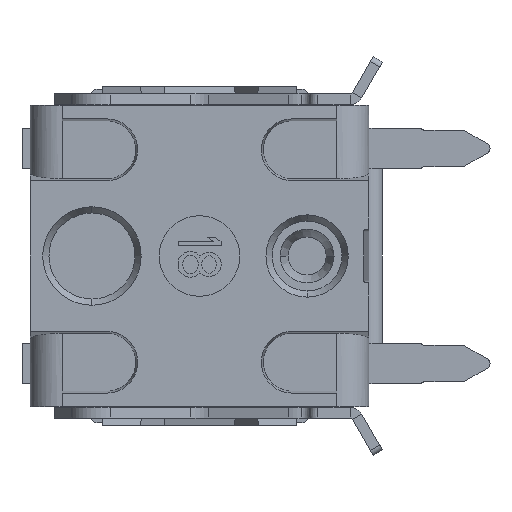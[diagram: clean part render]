
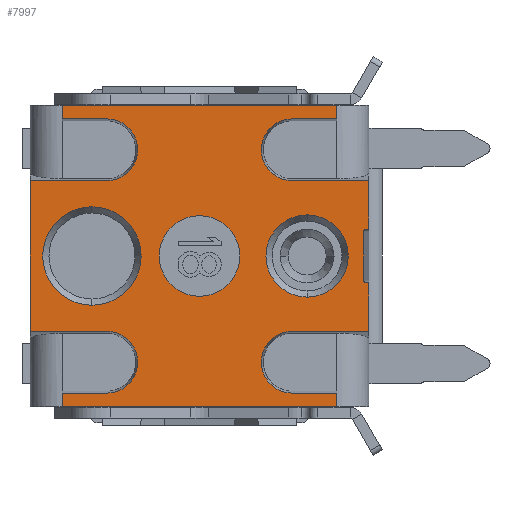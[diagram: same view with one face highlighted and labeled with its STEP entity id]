
A CAD part, front view. The second image highlights one B-rep face of the part: STEP entity #7997.
In plain terms, the highlighted planar face has unit normal (0, -1, 0).
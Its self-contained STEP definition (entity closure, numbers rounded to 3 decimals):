
#522=DIRECTION('',(1.,0.,0.));
#523=VECTOR('',#522,5.1);
#524=CARTESIAN_POINT('',(-2.55,-1.24,-2.8));
#525=LINE('',#524,#523);
#602=DIRECTION('',(-1.,0.,0.));
#603=VECTOR('',#602,0.05);
#604=CARTESIAN_POINT('',(3.15,-1.24,0.5));
#605=LINE('',#604,#603);
#606=DIRECTION('',(0.,0.,-1.));
#607=VECTOR('',#606,0.9);
#608=CARTESIAN_POINT('',(3.05,-1.24,0.45));
#609=LINE('',#608,#607);
#610=DIRECTION('',(1.,0.,0.));
#611=VECTOR('',#610,0.05);
#612=CARTESIAN_POINT('',(3.1,-1.24,-0.5));
#613=LINE('',#612,#611);
#614=DIRECTION('',(0.,0.,1.));
#615=VECTOR('',#614,0.9);
#616=CARTESIAN_POINT('',(3.15,-1.24,-1.4));
#617=LINE('',#616,#615);
#618=DIRECTION('',(-1.,0.,0.));
#619=VECTOR('',#618,1.425);
#620=CARTESIAN_POINT('',(3.15,-1.24,-1.4));
#621=LINE('',#620,#619);
#622=CARTESIAN_POINT('',(1.725,-1.24,-1.975));
#623=DIRECTION('',(0.,-1.,0.));
#624=DIRECTION('',(0.,0.,1.));
#625=AXIS2_PLACEMENT_3D('',#622,#623,#624);
#627=DIRECTION('',(1.,0.,0.));
#628=VECTOR('',#627,0.825);
#629=CARTESIAN_POINT('',(1.725,-1.24,-2.55));
#630=LINE('',#629,#628);
#631=DIRECTION('',(0.,0.,1.));
#632=VECTOR('',#631,0.25);
#633=CARTESIAN_POINT('',(2.55,-1.24,-2.8));
#634=LINE('',#633,#632);
#635=DIRECTION('',(0.,0.,1.));
#636=VECTOR('',#635,0.25);
#637=CARTESIAN_POINT('',(-2.55,-1.24,-2.8));
#638=LINE('',#637,#636);
#639=DIRECTION('',(1.,0.,0.));
#640=VECTOR('',#639,0.825);
#641=CARTESIAN_POINT('',(-2.55,-1.24,-2.55));
#642=LINE('',#641,#640);
#643=CARTESIAN_POINT('',(-1.725,-1.24,-1.975));
#644=DIRECTION('',(0.,-1.,0.));
#645=DIRECTION('',(0.,0.,-1.));
#646=AXIS2_PLACEMENT_3D('',#643,#644,#645);
#648=DIRECTION('',(1.,0.,0.));
#649=VECTOR('',#648,1.425);
#650=CARTESIAN_POINT('',(-3.15,-1.24,-1.4));
#651=LINE('',#650,#649);
#652=DIRECTION('',(0.,0.,-1.));
#653=VECTOR('',#652,2.8);
#654=CARTESIAN_POINT('',(-3.15,-1.24,1.4));
#655=LINE('',#654,#653);
#656=DIRECTION('',(1.,0.,0.));
#657=VECTOR('',#656,1.425);
#658=CARTESIAN_POINT('',(-3.15,-1.24,1.4));
#659=LINE('',#658,#657);
#660=CARTESIAN_POINT('',(-1.725,-1.24,1.975));
#661=DIRECTION('',(0.,-1.,0.));
#662=DIRECTION('',(0.,0.,-1.));
#663=AXIS2_PLACEMENT_3D('',#660,#661,#662);
#665=DIRECTION('',(-1.,0.,0.));
#666=VECTOR('',#665,0.825);
#667=CARTESIAN_POINT('',(-1.725,-1.24,2.55));
#668=LINE('',#667,#666);
#669=DIRECTION('',(0.,0.,-1.));
#670=VECTOR('',#669,0.25);
#671=CARTESIAN_POINT('',(-2.55,-1.24,2.8));
#672=LINE('',#671,#670);
#673=DIRECTION('',(0.,0.,-1.));
#674=VECTOR('',#673,0.25);
#675=CARTESIAN_POINT('',(2.55,-1.24,2.8));
#676=LINE('',#675,#674);
#677=DIRECTION('',(-1.,0.,0.));
#678=VECTOR('',#677,0.825);
#679=CARTESIAN_POINT('',(2.55,-1.24,2.55));
#680=LINE('',#679,#678);
#681=CARTESIAN_POINT('',(1.725,-1.24,1.975));
#682=DIRECTION('',(0.,-1.,0.));
#683=DIRECTION('',(0.,0.,1.));
#684=AXIS2_PLACEMENT_3D('',#681,#682,#683);
#686=DIRECTION('',(-1.,0.,0.));
#687=VECTOR('',#686,1.425);
#688=CARTESIAN_POINT('',(3.15,-1.24,1.4));
#689=LINE('',#688,#687);
#690=DIRECTION('',(0.,0.,1.));
#691=VECTOR('',#690,0.9);
#692=CARTESIAN_POINT('',(3.15,-1.24,0.5));
#693=LINE('',#692,#691);
#694=CARTESIAN_POINT('',(0.,-1.24,0.));
#695=DIRECTION('',(0.,1.,0.));
#696=DIRECTION('',(0.,0.,1.));
#697=AXIS2_PLACEMENT_3D('',#694,#695,#696);
#699=CARTESIAN_POINT('',(0.,-1.24,0.));
#700=DIRECTION('',(0.,1.,0.));
#701=DIRECTION('',(0.,0.,-1.));
#702=AXIS2_PLACEMENT_3D('',#699,#700,#701);
#704=CARTESIAN_POINT('',(2.,-1.24,0.));
#705=DIRECTION('',(0.,1.,0.));
#706=DIRECTION('',(0.,0.,-1.));
#707=AXIS2_PLACEMENT_3D('',#704,#705,#706);
#709=CARTESIAN_POINT('',(2.,-1.24,0.));
#710=DIRECTION('',(0.,1.,0.));
#711=DIRECTION('',(0.,0.,1.));
#712=AXIS2_PLACEMENT_3D('',#709,#710,#711);
#714=CARTESIAN_POINT('',(-2.,-1.24,0.));
#715=DIRECTION('',(0.,1.,0.));
#716=DIRECTION('',(0.,0.,-1.));
#717=AXIS2_PLACEMENT_3D('',#714,#715,#716);
#719=CARTESIAN_POINT('',(-2.,-1.24,0.));
#720=DIRECTION('',(0.,1.,0.));
#721=DIRECTION('',(0.,0.,1.));
#722=AXIS2_PLACEMENT_3D('',#719,#720,#721);
#747=CARTESIAN_POINT('',(3.05,-1.24,0.45));
#748=CARTESIAN_POINT('',(3.05,-1.24,0.467));
#749=CARTESIAN_POINT('',(3.063,-1.24,0.487));
#750=CARTESIAN_POINT('',(3.083,-1.24,0.5));
#751=CARTESIAN_POINT('',(3.1,-1.24,0.5));
#1287=DIRECTION('',(-1.,0.,0.));
#1288=VECTOR('',#1287,5.1);
#1289=CARTESIAN_POINT('',(2.55,-1.24,2.8));
#1290=LINE('',#1289,#1288);
#4399=CARTESIAN_POINT('',(3.1,-1.24,-0.5));
#4400=CARTESIAN_POINT('',(3.083,-1.24,-0.5));
#4401=CARTESIAN_POINT('',(3.063,-1.24,-0.487));
#4402=CARTESIAN_POINT('',(3.05,-1.24,-0.467));
#4403=CARTESIAN_POINT('',(3.05,-1.24,-0.45));
#5581=CARTESIAN_POINT('',(0.,-1.24,0.75));
#5582=CARTESIAN_POINT('',(0.,-1.24,-0.75));
#5583=VERTEX_POINT('',#5581);
#5584=VERTEX_POINT('',#5582);
#5877=CARTESIAN_POINT('',(2.,-1.24,-0.765));
#5878=CARTESIAN_POINT('',(2.,-1.24,0.765));
#5879=VERTEX_POINT('',#5877);
#5880=VERTEX_POINT('',#5878);
#5881=CARTESIAN_POINT('',(-2.,-1.24,-0.915));
#5882=CARTESIAN_POINT('',(-2.,-1.24,0.915));
#5883=VERTEX_POINT('',#5881);
#5884=VERTEX_POINT('',#5882);
#5913=CARTESIAN_POINT('',(-3.15,-1.24,1.4));
#5914=CARTESIAN_POINT('',(-3.15,-1.24,-1.4));
#5915=VERTEX_POINT('',#5913);
#5916=VERTEX_POINT('',#5914);
#5917=CARTESIAN_POINT('',(3.15,-1.24,-1.4));
#5918=CARTESIAN_POINT('',(1.725,-1.24,-1.4));
#5919=VERTEX_POINT('',#5917);
#5920=VERTEX_POINT('',#5918);
#5921=CARTESIAN_POINT('',(-1.725,-1.24,-1.4));
#5922=VERTEX_POINT('',#5921);
#5923=CARTESIAN_POINT('',(3.15,-1.24,1.4));
#5924=CARTESIAN_POINT('',(1.725,-1.24,1.4));
#5925=VERTEX_POINT('',#5923);
#5926=VERTEX_POINT('',#5924);
#5927=CARTESIAN_POINT('',(-1.725,-1.24,1.4));
#5928=VERTEX_POINT('',#5927);
#5935=CARTESIAN_POINT('',(-1.725,-1.24,2.55));
#5937=VERTEX_POINT('',#5935);
#5939=CARTESIAN_POINT('',(1.725,-1.24,2.55));
#5941=VERTEX_POINT('',#5939);
#5945=CARTESIAN_POINT('',(-1.725,-1.24,-2.55));
#5947=VERTEX_POINT('',#5945);
#5953=CARTESIAN_POINT('',(1.725,-1.24,-2.55));
#5955=VERTEX_POINT('',#5953);
#5957=CARTESIAN_POINT('',(2.55,-1.24,2.55));
#5958=VERTEX_POINT('',#5957);
#5959=CARTESIAN_POINT('',(-2.55,-1.24,2.55));
#5960=VERTEX_POINT('',#5959);
#5965=CARTESIAN_POINT('',(2.55,-1.24,2.8));
#5966=CARTESIAN_POINT('',(-2.55,-1.24,2.8));
#5967=VERTEX_POINT('',#5965);
#5968=VERTEX_POINT('',#5966);
#5969=CARTESIAN_POINT('',(-2.55,-1.24,-2.8));
#5970=CARTESIAN_POINT('',(2.55,-1.24,-2.8));
#5971=VERTEX_POINT('',#5969);
#5972=VERTEX_POINT('',#5970);
#6005=CARTESIAN_POINT('',(3.1,-1.24,-0.5));
#6006=VERTEX_POINT('',#6005);
#6007=CARTESIAN_POINT('',(3.05,-1.24,-0.45));
#6008=VERTEX_POINT('',#6007);
#6009=CARTESIAN_POINT('',(3.1,-1.24,0.5));
#6010=VERTEX_POINT('',#6009);
#6011=CARTESIAN_POINT('',(3.05,-1.24,0.45));
#6012=VERTEX_POINT('',#6011);
#6013=CARTESIAN_POINT('',(3.15,-1.24,-0.5));
#6014=VERTEX_POINT('',#6013);
#6015=CARTESIAN_POINT('',(3.15,-1.24,0.5));
#6016=VERTEX_POINT('',#6015);
#6049=CARTESIAN_POINT('',(-2.55,-1.24,-2.55));
#6050=VERTEX_POINT('',#6049);
#6051=CARTESIAN_POINT('',(2.55,-1.24,-2.55));
#6052=VERTEX_POINT('',#6051);
#7924=CARTESIAN_POINT('',(0.,-1.24,0.));
#7925=DIRECTION('',(0.,-1.,0.));
#7926=DIRECTION('',(1.,0.,0.));
#7927=AXIS2_PLACEMENT_3D('',#7924,#7925,#7926);
#7928=PLANE('',#7927);
#7930=ORIENTED_EDGE('',*,*,#7929,.T.);
#7932=ORIENTED_EDGE('',*,*,#7931,.F.);
#7934=ORIENTED_EDGE('',*,*,#7933,.T.);
#7936=ORIENTED_EDGE('',*,*,#7935,.F.);
#7938=ORIENTED_EDGE('',*,*,#7937,.T.);
#7940=ORIENTED_EDGE('',*,*,#7939,.F.);
#7942=ORIENTED_EDGE('',*,*,#7941,.T.);
#7944=ORIENTED_EDGE('',*,*,#7943,.T.);
#7946=ORIENTED_EDGE('',*,*,#7945,.T.);
#7948=ORIENTED_EDGE('',*,*,#7947,.F.);
#7949=ORIENTED_EDGE('',*,*,#7801,.F.);
#7951=ORIENTED_EDGE('',*,*,#7950,.T.);
#7953=ORIENTED_EDGE('',*,*,#7952,.T.);
#7954=ORIENTED_EDGE('',*,*,#7908,.T.);
#7955=ORIENTED_EDGE('',*,*,#7868,.F.);
#7956=ORIENTED_EDGE('',*,*,#7022,.F.);
#7958=ORIENTED_EDGE('',*,*,#7957,.T.);
#7960=ORIENTED_EDGE('',*,*,#7959,.T.);
#7962=ORIENTED_EDGE('',*,*,#7961,.T.);
#7964=ORIENTED_EDGE('',*,*,#7963,.F.);
#7966=ORIENTED_EDGE('',*,*,#7965,.F.);
#7968=ORIENTED_EDGE('',*,*,#7967,.T.);
#7970=ORIENTED_EDGE('',*,*,#7969,.T.);
#7972=ORIENTED_EDGE('',*,*,#7971,.T.);
#7974=ORIENTED_EDGE('',*,*,#7973,.F.);
#7976=ORIENTED_EDGE('',*,*,#7975,.F.);
#7977=EDGE_LOOP('',(#7930,#7932,#7934,#7936,#7938,#7940,#7942,#7944,#7946,#7948,
#7949,#7951,#7953,#7954,#7955,#7956,#7958,#7960,#7962,#7964,#7966,#7968,#7970,
#7972,#7974,#7976));
#7978=FACE_OUTER_BOUND('',#7977,.F.);
#7980=ORIENTED_EDGE('',*,*,#7979,.F.);
#7982=ORIENTED_EDGE('',*,*,#7981,.F.);
#7983=EDGE_LOOP('',(#7980,#7982));
#7984=FACE_BOUND('',#7983,.F.);
#7986=ORIENTED_EDGE('',*,*,#7985,.F.);
#7988=ORIENTED_EDGE('',*,*,#7987,.F.);
#7989=EDGE_LOOP('',(#7986,#7988));
#7990=FACE_BOUND('',#7989,.F.);
#7992=ORIENTED_EDGE('',*,*,#7991,.F.);
#7994=ORIENTED_EDGE('',*,*,#7993,.F.);
#7995=EDGE_LOOP('',(#7992,#7994));
#7996=FACE_BOUND('',#7995,.F.);
#7997=ADVANCED_FACE('',(#7978,#7984,#7990,#7996),#7928,.T.);
#626=CIRCLE('',#625,0.575);
#647=CIRCLE('',#646,0.575);
#664=CIRCLE('',#663,0.575);
#685=CIRCLE('',#684,0.575);
#698=CIRCLE('',#697,0.75);
#703=CIRCLE('',#702,0.75);
#708=CIRCLE('',#707,0.765);
#713=CIRCLE('',#712,0.765);
#718=CIRCLE('',#717,0.915);
#723=CIRCLE('',#722,0.915);
#752=B_SPLINE_CURVE_WITH_KNOTS('',3,(#747,#748,#749,#750,#751),.UNSPECIFIED.,
.F.,.F.,(4,1,4),(0.,0.5,1.),.UNSPECIFIED.);
#4404=B_SPLINE_CURVE_WITH_KNOTS('',3,(#4399,#4400,#4401,#4402,#4403),
.UNSPECIFIED.,.F.,.F.,(4,1,4),(0.,0.5,1.),.UNSPECIFIED.);
#7022=EDGE_CURVE('',#5915,#5916,#655,.T.);
#7801=EDGE_CURVE('',#5971,#5972,#525,.T.);
#7868=EDGE_CURVE('',#5916,#5922,#651,.T.);
#7908=EDGE_CURVE('',#5947,#5922,#647,.T.);
#7929=EDGE_CURVE('',#6016,#6010,#605,.T.);
#7931=EDGE_CURVE('',#6012,#6010,#752,.T.);
#7933=EDGE_CURVE('',#6012,#6008,#609,.T.);
#7935=EDGE_CURVE('',#6006,#6008,#4404,.T.);
#7937=EDGE_CURVE('',#6006,#6014,#613,.T.);
#7939=EDGE_CURVE('',#5919,#6014,#617,.T.);
#7941=EDGE_CURVE('',#5919,#5920,#621,.T.);
#7943=EDGE_CURVE('',#5920,#5955,#626,.T.);
#7945=EDGE_CURVE('',#5955,#6052,#630,.T.);
#7947=EDGE_CURVE('',#5972,#6052,#634,.T.);
#7950=EDGE_CURVE('',#5971,#6050,#638,.T.);
#7952=EDGE_CURVE('',#6050,#5947,#642,.T.);
#7957=EDGE_CURVE('',#5915,#5928,#659,.T.);
#7959=EDGE_CURVE('',#5928,#5937,#664,.T.);
#7961=EDGE_CURVE('',#5937,#5960,#668,.T.);
#7963=EDGE_CURVE('',#5968,#5960,#672,.T.);
#7965=EDGE_CURVE('',#5967,#5968,#1290,.T.);
#7967=EDGE_CURVE('',#5967,#5958,#676,.T.);
#7969=EDGE_CURVE('',#5958,#5941,#680,.T.);
#7971=EDGE_CURVE('',#5941,#5926,#685,.T.);
#7973=EDGE_CURVE('',#5925,#5926,#689,.T.);
#7975=EDGE_CURVE('',#6016,#5925,#693,.T.);
#7979=EDGE_CURVE('',#5583,#5584,#698,.T.);
#7981=EDGE_CURVE('',#5584,#5583,#703,.T.);
#7985=EDGE_CURVE('',#5879,#5880,#708,.T.);
#7987=EDGE_CURVE('',#5880,#5879,#713,.T.);
#7991=EDGE_CURVE('',#5883,#5884,#718,.T.);
#7993=EDGE_CURVE('',#5884,#5883,#723,.T.);
